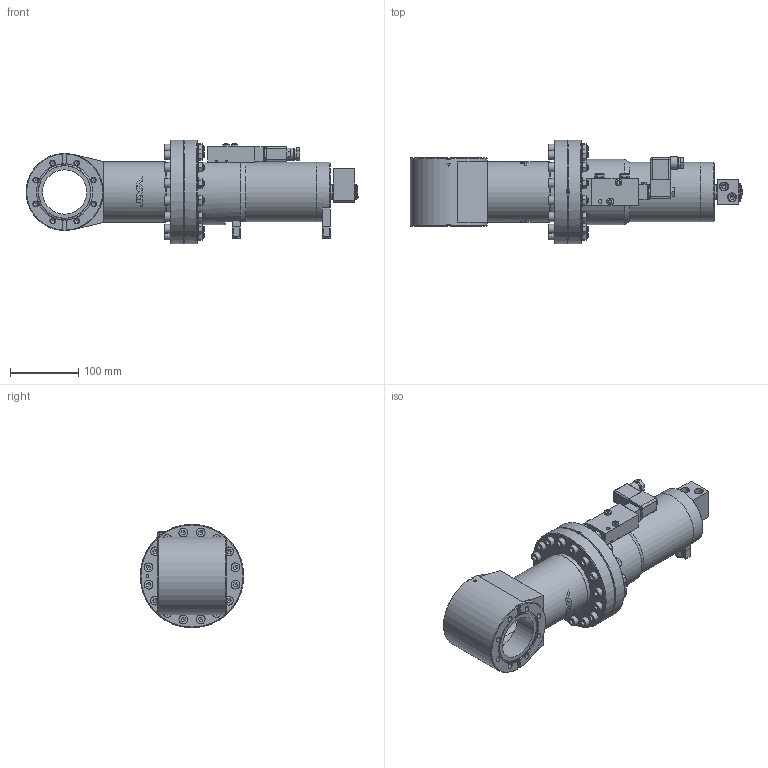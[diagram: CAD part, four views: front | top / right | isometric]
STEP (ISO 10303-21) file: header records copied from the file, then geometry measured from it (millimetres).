
FILE_DESCRIPTION(/* description */ (''),/* implementation_level */ '2;1');
FILE_NAME(/* name */ '1177622416_203',/* time_stamp */ '2009-01-20T13:50:17+01:00',/* author */ (''),/* organization */ (''),/* preprocessor_version */ 'ST-DEVELOPER v11',/* originating_system */ 'UGS - NX 5.0',/* authorisation */ '');
FILE_SCHEMA (('CONFIG_CONTROL_DESIGN'));
Length unit declared in the file: millimetre
Products named in the file (38): N-8406-013_3.2; N-8406-013_2.1; 73662-01.1; 202839_1.2; N-6121-039.1; N-6099-417.1; n-7501-502_1; n-7501-502_2; 89244-01.2; 89245-01_1.1; 89243-01_1.1; 77379-01.1; T-9001-055.1; N-6016-478.2; 366217; n-8501-300; n-6024-562; n-7100-016_4; n-6131-414; 334183; 218200.1; 83415-01.2; N-6200-419.1; 89253-01.1; 89255-01.1; 89254-01.1; 89251-01.2; N-6091-460.1; 33040-CKDF.1; N-6053-412.2; 224845.1; 89242-R1.1; N-8406-013_1_1.4; 78856-R1.3; 78855-R1.9; n-7501-502; 80993-r1; 366174
Assembly tree (90 placements, depth 5):
  366174
    80993-r1
      n-7100-016_4  x2
      n-6024-562  x2
      n-8501-300
      n-7501-502
        n-7501-502_2
        n-7501-502_1
      366217  x2
    224845.1  x16
    N-6053-412.2  x16
    78855-R1.9  x2
      N-6016-478.2
      T-9001-055.1
      78856-R1.3
        N-6099-417.1  x2
        N-6121-039.1
        202839_1.2
        73662-01.1
        N-8406-013_1_1.4
          N-8406-013_2.1
          202839_1.2
          N-8406-013_3.2
      77379-01.1
    89242-R1.1
      89243-01_1.1
      89245-01_1.1
      89244-01.2
    33040-CKDF.1
    N-6091-460.1
    89251-01.2
    89254-01.1
    89255-01.1
    89253-01.1
    N-6200-419.1
    83415-01.2
    218200.1  x2
    334183
    n-6131-414  x16
Bounding box: 487.75 x 152 x 152 mm (x, y, z)
Volume: 2119231.5 mm3; surface area: 549625.2 mm2
Topology: 131 solids, 131 shells, 2095 faces, 4843 edges, 3112 vertices
Faces by surface type: plane 1224, cylinder 570, cone 196, bspline 52, torus 26, extrusion 13, sphere 12, revolution 2
Full cylindrical faces by diameter (mm): 1.4 x4, 1.5 x4, 2 x4, 2.115 x8, 2.3 x2, 2.5 x5, 2.733 x2, 3 x15, 3.2 x1, 3.5 x10, 3.8 x1, 4 x3, 4.009 x1, 4.2 x3, 4.4 x2, 4.6 x1, 4.9 x1, 5 x9, 5.5 x5, 6 x8, 6.475 x2, 6.5 x2, 6.66 x18, 6.7 x18, 6.8 x18, 7.008 x2, 7.78 x1, 8 x70, 8.4 x50, 9.125 x2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
Entity records: 38801 total; most frequent: CARTESIAN_POINT 7698, DIRECTION 5368, ORIENTED_EDGE 4620, EDGE_CURVE 2310, AXIS2_PLACEMENT_3D 2144, EDGE_LOOP 1741, VERTEX_POINT 1720, FACE_BOUND 1145
